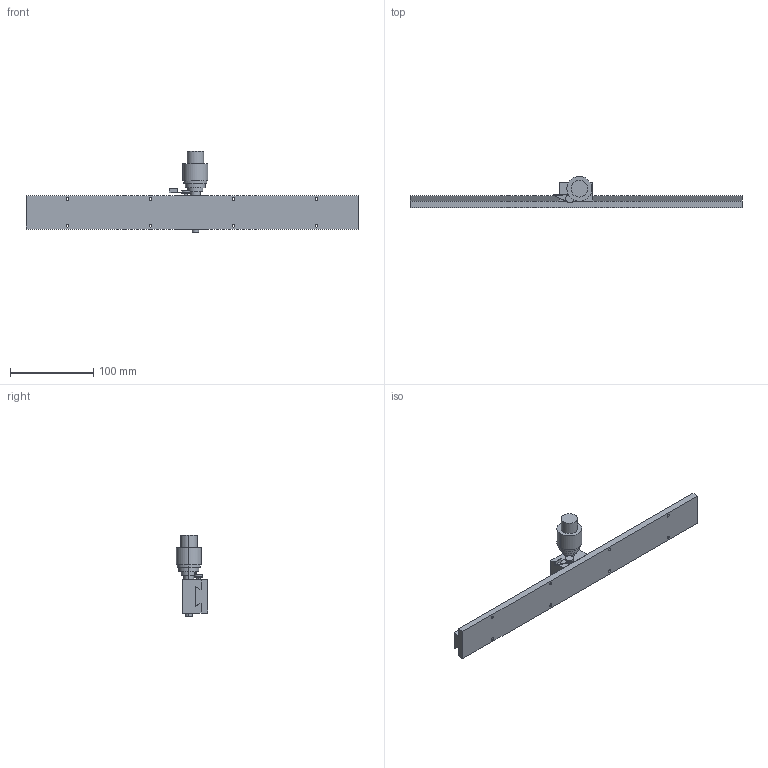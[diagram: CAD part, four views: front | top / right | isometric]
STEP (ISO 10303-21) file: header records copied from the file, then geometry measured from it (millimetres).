
FILE_DESCRIPTION (( 'STEP AP203' ), '1' );
FILE_NAME ('LS-414SL4 (2).STEP', '2016-04-08T08:01:21', ( '' ), ( '' ), 'SwSTEP 2.0', 'SolidWorks 2011', '' );
FILE_SCHEMA (( 'CONFIG_CONTROL_DESIGN' ));
Length unit declared in the file: millimetre
Products named in the file (3): LS-414SL4 (2); LS-414SL4-2; LS-414SL4-1
Assembly tree (2 placements, depth 2):
  LS-414SL4 (2)
    LS-414SL4-1
    LS-414SL4-2
Bounding box: 400 x 37.7 x 97.8 mm (x, y, z)
Volume: 233145.7 mm3; surface area: 62916.9 mm2
Topology: 2 solids, 2 shells, 167 faces, 386 edges, 243 vertices
Faces by surface type: cylinder 86, plane 65, cone 16
Entity records: 5008 total; most frequent: DIRECTION 889, CARTESIAN_POINT 785, ORIENTED_EDGE 740, EDGE_CURVE 370, AXIS2_PLACEMENT_3D 347, VERTEX_POINT 243, EDGE_LOOP 219, VECTOR 195
